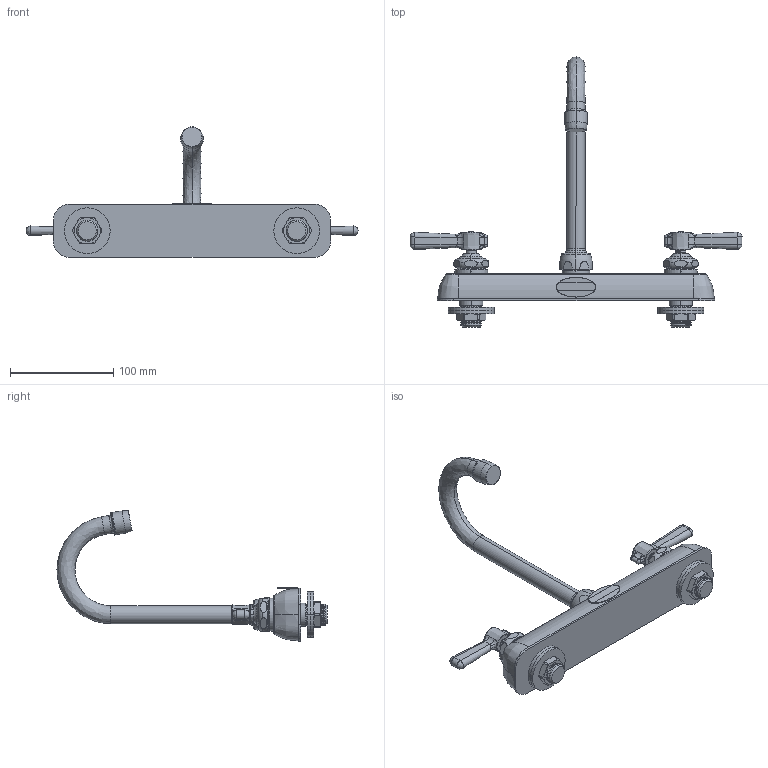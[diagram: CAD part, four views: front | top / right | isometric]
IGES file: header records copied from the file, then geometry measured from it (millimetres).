
Start section:  PTC IGES file: w8d-gn1ae35-369abcp_REV091112.igs
Global section: file name: w8d-gn1ae35-369abcp_REV091112.igs; native system: Pro/ENGINEER by Parametric Technology Corporation; preprocessor: 2011330; author: sdmitruk; organization: Unknown; date: 20120912.080739; units: inch
Bounding box: 322.07 x 261.97 x 126.89 mm (x, y, z)
Surface area: 109570.2 mm2 (no closed solid volume)
Topology: 0 solids, 0 shells, 555 faces, 4502 edges, 6048 vertices
Faces by surface type: revolution 312, bspline 243
